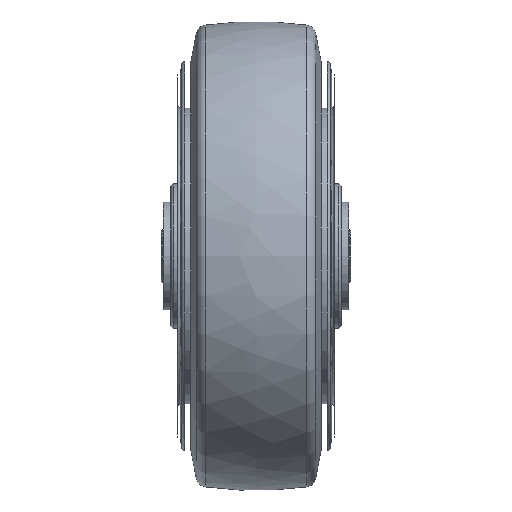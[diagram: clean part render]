
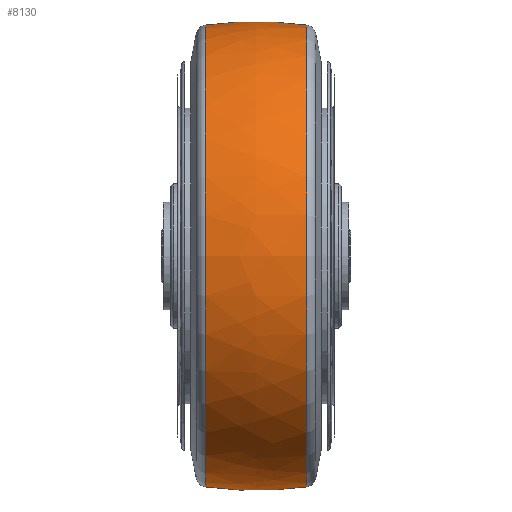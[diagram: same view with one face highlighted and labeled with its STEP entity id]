
A CAD part, top view. The second image highlights one B-rep face of the part: STEP entity #8130.
In plain terms, the highlighted free-form (B-spline) face has degree [3, 3] with [7, 4] control points.
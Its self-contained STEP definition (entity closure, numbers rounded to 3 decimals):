
#7815=CARTESIAN_POINT('',(-16.517,0.,0.));
#7816=DIRECTION('',(-1.,0.,0.));
#7817=DIRECTION('',(0.,-1.,0.));
#7818=AXIS2_PLACEMENT_3D('',#7815,#7816,#7817);
#7820=CARTESIAN_POINT('',(16.517,0.,0.));
#7821=DIRECTION('',(-1.,0.,0.));
#7822=DIRECTION('',(0.,-1.,0.));
#7823=AXIS2_PLACEMENT_3D('',#7820,#7821,#7822);
#7886=CARTESIAN_POINT('',(0.,44.583,
0.));
#7887=DIRECTION('',(0.,0.,-1.));
#7888=DIRECTION('',(0.136,-0.991,0.));
#7889=AXIS2_PLACEMENT_3D('',#7886,#7887,#7888);
#7896=CARTESIAN_POINT('',(0.,-44.583,0.));
#7897=DIRECTION('',(0.,0.,1.));
#7898=DIRECTION('',(0.136,0.991,0.));
#7899=AXIS2_PLACEMENT_3D('',#7896,#7897,#7898);
#8009=CARTESIAN_POINT('',(-16.517,75.368,0.));
#8010=CARTESIAN_POINT('',(-16.517,-75.368,
0.));
#8011=VERTEX_POINT('',#8009);
#8012=VERTEX_POINT('',#8010);
#8013=CARTESIAN_POINT('',(16.517,75.368,0.));
#8014=CARTESIAN_POINT('',(16.517,-75.368,
0.));
#8015=VERTEX_POINT('',#8013);
#8016=VERTEX_POINT('',#8014);
#8091=CARTESIAN_POINT('',(-17.174,75.127,
-4.727));
#8092=CARTESIAN_POINT('',(-5.763,76.759,
-4.829));
#8093=CARTESIAN_POINT('',(5.763,76.759,-4.829));
#8094=CARTESIAN_POINT('',(17.174,75.127,-4.727));
#8095=CARTESIAN_POINT('',(-17.174,78.036,41.507));
#8096=CARTESIAN_POINT('',(-5.763,79.731,42.408));
#8097=CARTESIAN_POINT('',(5.763,79.731,42.408));
#8098=CARTESIAN_POINT('',(17.174,78.036,41.507));
#8099=CARTESIAN_POINT('',(-17.174,46.325,75.276));
#8100=CARTESIAN_POINT('',(-5.763,47.331,76.911));
#8101=CARTESIAN_POINT('',(5.763,47.331,76.911));
#8102=CARTESIAN_POINT('',(17.174,46.325,75.276));
#8103=CARTESIAN_POINT('',(-17.174,0.,
75.276));
#8104=CARTESIAN_POINT('',(-5.763,0.,
76.911));
#8105=CARTESIAN_POINT('',(5.763,0.,
76.911));
#8106=CARTESIAN_POINT('',(17.174,0.,
75.276));
#8107=CARTESIAN_POINT('',(-17.174,-46.325,
75.276));
#8108=CARTESIAN_POINT('',(-5.763,-47.331,
76.911));
#8109=CARTESIAN_POINT('',(5.763,-47.331,76.911));
#8110=CARTESIAN_POINT('',(17.174,-46.325,75.276));
#8111=CARTESIAN_POINT('',(-17.174,-78.036,
41.507));
#8112=CARTESIAN_POINT('',(-5.763,-79.731,
42.408));
#8113=CARTESIAN_POINT('',(5.763,-79.731,42.408));
#8114=CARTESIAN_POINT('',(17.174,-78.036,41.507));
#8115=CARTESIAN_POINT('',(-17.174,-75.127,
-4.727));
#8116=CARTESIAN_POINT('',(-5.763,-76.759,
-4.829));
#8117=CARTESIAN_POINT('',(5.763,-76.759,
-4.829));
#8118=CARTESIAN_POINT('',(17.174,-75.127,
-4.727));
#8119=(BOUNDED_SURFACE()B_SPLINE_SURFACE(3,3,((#8091,#8092,#8093,#8094),(#8095,
#8096,#8097,#8098),(#8099,#8100,#8101,#8102),(#8103,#8104,#8105,#8106),(#8107,
#8108,#8109,#8110),(#8111,#8112,#8113,#8114),(#8115,#8116,#8117,#8118)),
.UNSPECIFIED.,.F.,.F.,.F.)B_SPLINE_SURFACE_WITH_KNOTS((4,3,4),(4,4),(0.,1.,
2.),(0.,1.),.UNSPECIFIED.)GEOMETRIC_REPRESENTATION_ITEM()RATIONAL_B_SPLINE_SURFACE(((1.193,1.185,1.185,1.193),(
0.942,0.936,0.936,0.942),(
0.942,0.936,0.936,0.942),(
1.193,1.185,1.185,1.193),(
0.942,0.936,0.936,0.942),(
0.942,0.936,0.936,0.942),(
1.193,1.185,1.185,1.193)))REPRESENTATION_ITEM('')SURFACE());
#8121=ORIENTED_EDGE('',*,*,#8120,.T.);
#8123=ORIENTED_EDGE('',*,*,#8122,.F.);
#8125=ORIENTED_EDGE('',*,*,#8124,.F.);
#8127=ORIENTED_EDGE('',*,*,#8126,.T.);
#8128=EDGE_LOOP('',(#8121,#8123,#8125,#8127));
#8129=FACE_OUTER_BOUND('',#8128,.F.);
#7819=CIRCLE('',#7818,75.368);
#7824=CIRCLE('',#7823,75.368);
#7890=CIRCLE('',#7889,121.083);
#7900=CIRCLE('',#7899,121.083);
#8120=EDGE_CURVE('',#8012,#8011,#7819,.T.);
#8122=EDGE_CURVE('',#8015,#8011,#7900,.T.);
#8124=EDGE_CURVE('',#8016,#8015,#7824,.T.);
#8126=EDGE_CURVE('',#8016,#8012,#7890,.T.);
#8130=ADVANCED_FACE('',(#8129),#8119,.T.);
